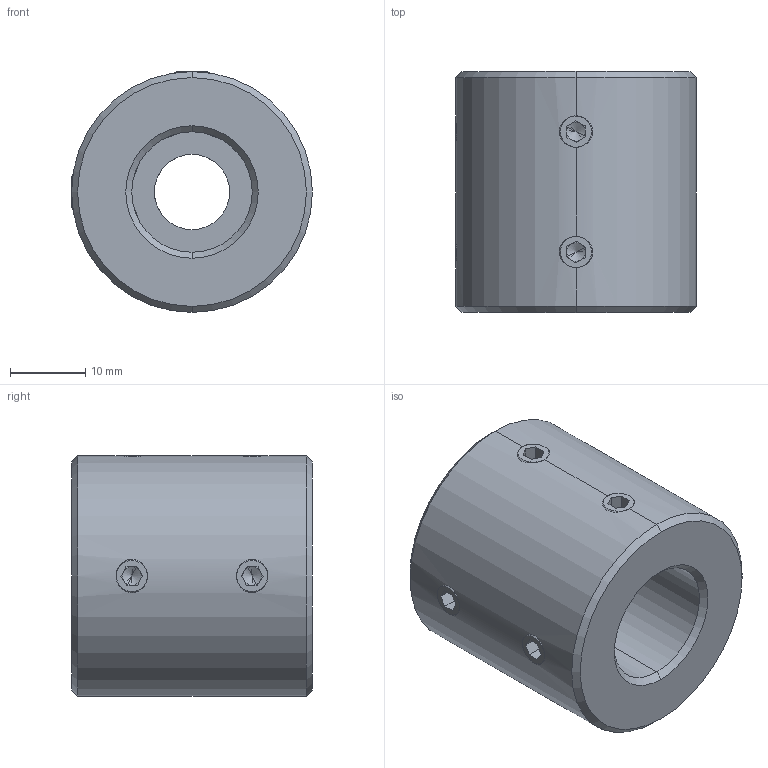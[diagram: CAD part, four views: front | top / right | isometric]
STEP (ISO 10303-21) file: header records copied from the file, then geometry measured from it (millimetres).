
FILE_DESCRIPTION (( 'STEP AP214' ), '1' );
FILE_NAME ('LL-D-D32L32-10-16½¨Ä£.STEP', '2022-07-22T11:29:38', ( '' ), ( '' ), 'SwSTEP 2.0', 'SolidWorks 2022', '' );
FILE_SCHEMA (( 'AUTOMOTIVE_DESIGN' ));
Length unit declared in the file: millimetre
Products named in the file (1): LL-D-D32L32-10-16膘耀
Bounding box: 32 x 32 x 32 mm (x, y, z)
Volume: 21034.6 mm3; surface area: 6030.6 mm2
Topology: 1 solids, 1 shells, 113 faces, 286 edges, 176 vertices
Faces by surface type: plane 59, cone 32, cylinder 22
Entity records: 3752 total; most frequent: CARTESIAN_POINT 1042, DIRECTION 558, ORIENTED_EDGE 556, EDGE_CURVE 278, AXIS2_PLACEMENT_3D 206, VERTEX_POINT 176, LINE 146, VECTOR 146
